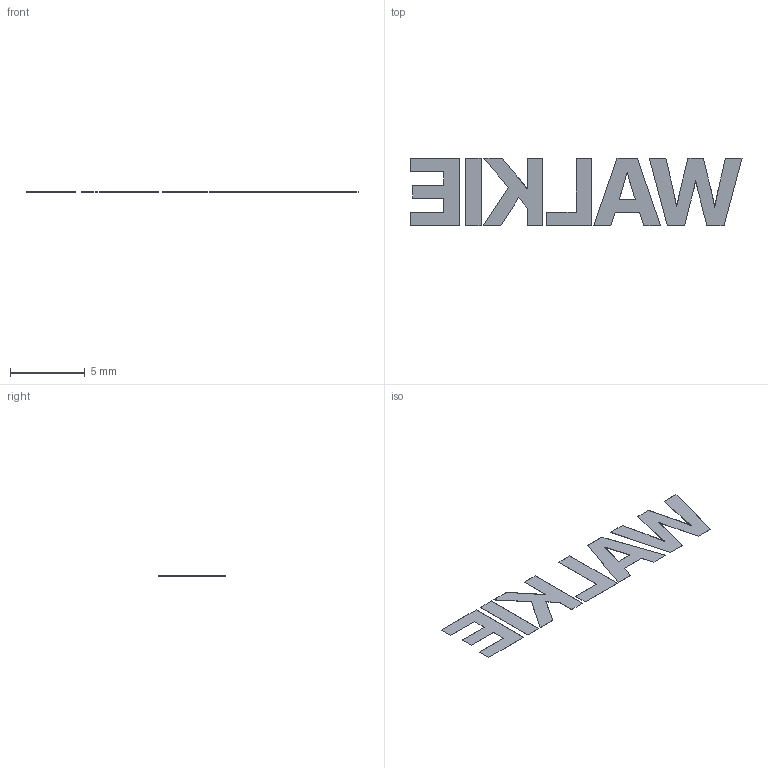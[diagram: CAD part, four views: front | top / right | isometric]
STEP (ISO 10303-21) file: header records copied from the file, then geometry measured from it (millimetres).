
FILE_DESCRIPTION(('Open CASCADE Model'),'2;1');
FILE_NAME('Open CASCADE Shape Model','2026-09-04T21:48:08',('Author'),( 'Open CASCADE'),'Open CASCADE STEP processor 7.7','Open CASCADE 7.7' ,'Unknown');
FILE_SCHEMA(('AUTOMOTIVE_DESIGN { 1 0 10303 214 1 1 1 1 }'));
Length unit declared in the file: millimetre
Products named in the file (7): Open CASCADE STEP translator 7.7 1; Open CASCADE STEP translator 7.7 1.1; Open CASCADE STEP translator 7.7 1.2; Open CASCADE STEP translator 7.7 1.3; Open CASCADE STEP translator 7.7 1.4; Open CASCADE STEP translator 7.7 1.5; Open CASCADE STEP translator 7.7 1.6
Assembly tree (6 placements, depth 2):
  Open CASCADE STEP translator 7.7 1
    Open CASCADE STEP translator 7.7 1.1
    Open CASCADE STEP translator 7.7 1.2
    Open CASCADE STEP translator 7.7 1.3
    Open CASCADE STEP translator 7.7 1.4
    Open CASCADE STEP translator 7.7 1.5
    Open CASCADE STEP translator 7.7 1.6
Bounding box: 22.23 x 4.5 x 0.01 mm (x, y, z)
Volume: 0.5 mm3; surface area: 117.2 mm2
Topology: 6 solids, 6 shells, 570 faces, 1674 edges, 1116 vertices
Faces by surface type: plane 570
Entity records: 40412 total; most frequent: CARTESIAN_POINT 6715, DIRECTION 6176, LINE 5022, VECTOR 5022, ORIENTED_EDGE 3348, PCURVE 3348, DEFINITIONAL_REPRESENTATION 3348, EDGE_CURVE 1674
